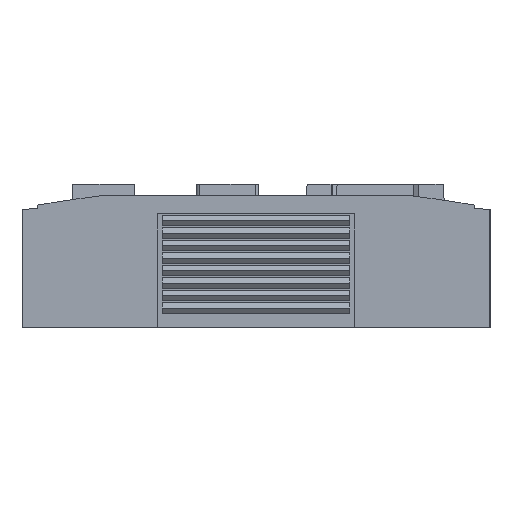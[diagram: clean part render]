
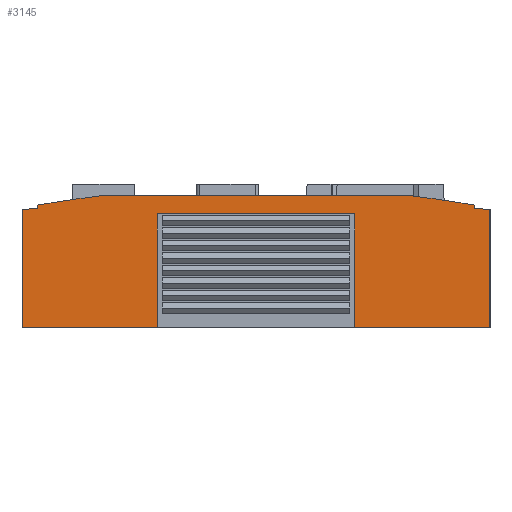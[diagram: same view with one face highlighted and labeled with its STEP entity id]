
A CAD part, left-side view. The second image highlights one B-rep face of the part: STEP entity #3145.
In plain terms, the highlighted planar face has unit normal (-1, 0, 0).
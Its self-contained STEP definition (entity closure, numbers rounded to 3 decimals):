
#43 = CARTESIAN_POINT ( 'NONE',  ( 0.5, 32., 0. ) ) ;
#82 = VERTEX_POINT ( 'NONE', #5056 ) ;
#91 = PLANE ( 'NONE',  #356 ) ;
#182 = DIRECTION ( 'NONE',  ( 0., 0., 1. ) ) ;
#196 = ORIENTED_EDGE ( 'NONE', *, *, #6388, .T. ) ;
#219 = DIRECTION ( 'NONE',  ( 0., 0., -1. ) ) ;
#260 = ORIENTED_EDGE ( 'NONE', *, *, #359, .F. ) ;
#279 = CARTESIAN_POINT ( 'NONE',  ( 0.5, 1.5, 11.8 ) ) ;
#281 = EDGE_CURVE ( 'NONE', #969, #1845, #2978, .T. ) ;
#317 = DIRECTION ( 'NONE',  ( 0., -1., 0. ) ) ;
#356 = AXIS2_PLACEMENT_3D ( 'NONE', #1046, #6386, #1518 ) ;
#359 = EDGE_CURVE ( 'NONE', #1845, #652, #5149, .T. ) ;
#413 = ORIENTED_EDGE ( 'NONE', *, *, #984, .T. ) ;
#439 = ORIENTED_EDGE ( 'NONE', *, *, #6609, .T. ) ;
#576 = VECTOR ( 'NONE', #4188, 1000. ) ;
#589 = EDGE_CURVE ( 'NONE', #6682, #82, #4470, .T. ) ;
#652 = VERTEX_POINT ( 'NONE', #3891 ) ;
#707 = VECTOR ( 'NONE', #182, 1000. ) ;
#721 = ORIENTED_EDGE ( 'NONE', *, *, #3409, .F. ) ;
#759 = EDGE_CURVE ( 'NONE', #4061, #1226, #1474, .T. ) ;
#834 = CARTESIAN_POINT ( 'NONE',  ( 0.5, 43.5, 11.8 ) ) ;
#864 = DIRECTION ( 'NONE',  ( 0., 0., -1. ) ) ;
#967 = DIRECTION ( 'NONE',  ( 0., 0.995, -0.099 ) ) ;
#969 = VERTEX_POINT ( 'NONE', #6579 ) ;
#984 = EDGE_CURVE ( 'NONE', #1226, #1808, #6511, .T. ) ;
#1025 = VECTOR ( 'NONE', #3736, 1000. ) ;
#1035 = ORIENTED_EDGE ( 'NONE', *, *, #4230, .F. ) ;
#1046 = CARTESIAN_POINT ( 'NONE',  ( 0.5, 45., 11.5 ) ) ;
#1059 = EDGE_CURVE ( 'NONE', #1149, #4763, #2122, .T. ) ;
#1066 = CARTESIAN_POINT ( 'NONE',  ( 0.5, 43.5, 11.5 ) ) ;
#1067 = VECTOR ( 'NONE', #317, 1000. ) ;
#1131 = CARTESIAN_POINT ( 'NONE',  ( 0.5, 32., 10.95 ) ) ;
#1149 = VERTEX_POINT ( 'NONE', #5047 ) ;
#1221 = VECTOR ( 'NONE', #4959, 1000. ) ;
#1226 = VERTEX_POINT ( 'NONE', #5976 ) ;
#1323 = VECTOR ( 'NONE', #967, 1000. ) ;
#1359 = CARTESIAN_POINT ( 'NONE',  ( 0.5, 22.5, -111.423 ) ) ;
#1474 = LINE ( 'NONE', #5690, #1323 ) ;
#1518 = DIRECTION ( 'NONE',  ( 0., 0., -1. ) ) ;
#1525 = DIRECTION ( 'NONE',  ( 0., 0., -1. ) ) ;
#1559 = CARTESIAN_POINT ( 'NONE',  ( 0.5, 32., 0. ) ) ;
#1675 = VECTOR ( 'NONE', #2404, 1000. ) ;
#1716 = CARTESIAN_POINT ( 'NONE',  ( 0.5, 13., 0. ) ) ;
#1727 = CARTESIAN_POINT ( 'NONE',  ( 0.5, 37.528, 12.67 ) ) ;
#1808 = VERTEX_POINT ( 'NONE', #2896 ) ;
#1830 = EDGE_CURVE ( 'NONE', #82, #4763, #2453, .T. ) ;
#1837 = CARTESIAN_POINT ( 'NONE',  ( 0.5, 45., 11.5 ) ) ;
#1845 = VERTEX_POINT ( 'NONE', #279 ) ;
#1869 = VECTOR ( 'NONE', #3448, 1000. ) ;
#1966 = CARTESIAN_POINT ( 'NONE',  ( 0.5, 22.5, -111.423 ) ) ;
#2031 = ORIENTED_EDGE ( 'NONE', *, *, #281, .F. ) ;
#2058 = ORIENTED_EDGE ( 'NONE', *, *, #589, .T. ) ;
#2075 = CARTESIAN_POINT ( 'NONE',  ( 0.5, 1.5, 11.8 ) ) ;
#2122 = LINE ( 'NONE', #2914, #576 ) ;
#2404 = DIRECTION ( 'NONE',  ( 0., -1., 0. ) ) ;
#2453 = LINE ( 'NONE', #5004, #1869 ) ;
#2468 = EDGE_CURVE ( 'NONE', #4163, #969, #5887, .T. ) ;
#2510 = LINE ( 'NONE', #5144, #1675 ) ;
#2691 = FACE_OUTER_BOUND ( 'NONE', #4591, .T. ) ;
#2696 = LINE ( 'NONE', #1559, #2780 ) ;
#2702 = AXIS2_PLACEMENT_3D ( 'NONE', #1359, #4944, #219 ) ;
#2743 = LINE ( 'NONE', #6475, #2911 ) ;
#2747 = DIRECTION ( 'NONE',  ( 0., 0., -1. ) ) ;
#2780 = VECTOR ( 'NONE', #1525, 1000. ) ;
#2896 = CARTESIAN_POINT ( 'NONE',  ( 0.5, 45., 0. ) ) ;
#2911 = VECTOR ( 'NONE', #3810, 1000. ) ;
#2914 = CARTESIAN_POINT ( 'NONE',  ( 0.5, 0., 11.5 ) ) ;
#2978 = CIRCLE ( 'NONE', #4076, 125. ) ;
#3134 = CARTESIAN_POINT ( 'NONE',  ( 0.5, 37.528, 12.67 ) ) ;
#3145 = ADVANCED_FACE ( 'NONE', ( #2691 ), #91, .F. ) ;
#3256 = CIRCLE ( 'NONE', #2702, 125. ) ;
#3271 = VERTEX_POINT ( 'NONE', #834 ) ;
#3409 = EDGE_CURVE ( 'NONE', #6274, #4130, #2696, .T. ) ;
#3448 = DIRECTION ( 'NONE',  ( 0., -1., 0. ) ) ;
#3536 = CARTESIAN_POINT ( 'NONE',  ( 0.5, 0., 0. ) ) ;
#3550 = DIRECTION ( 'NONE',  ( 0., 0., -1. ) ) ;
#3616 = EDGE_CURVE ( 'NONE', #1808, #4130, #2510, .T. ) ;
#3736 = DIRECTION ( 'NONE',  ( 0., -1., 0. ) ) ;
#3810 = DIRECTION ( 'NONE',  ( 0., 0.995, 0.099 ) ) ;
#3825 = ORIENTED_EDGE ( 'NONE', *, *, #759, .T. ) ;
#3891 = CARTESIAN_POINT ( 'NONE',  ( 0.5, 1.5, 11.5 ) ) ;
#4061 = VERTEX_POINT ( 'NONE', #1066 ) ;
#4076 = AXIS2_PLACEMENT_3D ( 'NONE', #1966, #5660, #3550 ) ;
#4130 = VERTEX_POINT ( 'NONE', #43 ) ;
#4163 = VERTEX_POINT ( 'NONE', #1727 ) ;
#4188 = DIRECTION ( 'NONE',  ( 0., 0., -1. ) ) ;
#4230 = EDGE_CURVE ( 'NONE', #4061, #3271, #5036, .T. ) ;
#4433 = ORIENTED_EDGE ( 'NONE', *, *, #1059, .F. ) ;
#4463 = CARTESIAN_POINT ( 'NONE',  ( 0.5, 13., 10.95 ) ) ;
#4470 = LINE ( 'NONE', #1716, #1221 ) ;
#4591 = EDGE_LOOP ( 'NONE', ( #413, #6195, #721, #439, #2058, #6749, #4433, #196, #260, #2031, #5600, #6585, #1035, #3825 ) ) ;
#4763 = VERTEX_POINT ( 'NONE', #3536 ) ;
#4944 = DIRECTION ( 'NONE',  ( 1., 0., 0. ) ) ;
#4959 = DIRECTION ( 'NONE',  ( 0., 0., -1. ) ) ;
#4984 = EDGE_CURVE ( 'NONE', #3271, #4163, #3256, .T. ) ;
#5004 = CARTESIAN_POINT ( 'NONE',  ( 0.5, 45., 0. ) ) ;
#5036 = LINE ( 'NONE', #5493, #707 ) ;
#5041 = CARTESIAN_POINT ( 'NONE',  ( 0.5, 32., 10.95 ) ) ;
#5047 = CARTESIAN_POINT ( 'NONE',  ( 0.5, 0., 11.35 ) ) ;
#5056 = CARTESIAN_POINT ( 'NONE',  ( 0.5, 13., 0. ) ) ;
#5082 = LINE ( 'NONE', #5041, #1067 ) ;
#5144 = CARTESIAN_POINT ( 'NONE',  ( 0.5, 45., 0. ) ) ;
#5149 = LINE ( 'NONE', #2075, #5403 ) ;
#5403 = VECTOR ( 'NONE', #864, 1000. ) ;
#5493 = CARTESIAN_POINT ( 'NONE',  ( 0.5, 43.5, 11.8 ) ) ;
#5600 = ORIENTED_EDGE ( 'NONE', *, *, #2468, .F. ) ;
#5660 = DIRECTION ( 'NONE',  ( 1., 0., 0. ) ) ;
#5690 = CARTESIAN_POINT ( 'NONE',  ( 0.5, 43.5, 11.5 ) ) ;
#5887 = LINE ( 'NONE', #3134, #1025 ) ;
#5976 = CARTESIAN_POINT ( 'NONE',  ( 0.5, 45., 11.35 ) ) ;
#6195 = ORIENTED_EDGE ( 'NONE', *, *, #3616, .T. ) ;
#6274 = VERTEX_POINT ( 'NONE', #1131 ) ;
#6386 = DIRECTION ( 'NONE',  ( 1., 0., 0. ) ) ;
#6388 = EDGE_CURVE ( 'NONE', #1149, #652, #2743, .T. ) ;
#6475 = CARTESIAN_POINT ( 'NONE',  ( 0.5, 1.5, 11.5 ) ) ;
#6511 = LINE ( 'NONE', #1837, #6629 ) ;
#6579 = CARTESIAN_POINT ( 'NONE',  ( 0.5, 7.472, 12.67 ) ) ;
#6585 = ORIENTED_EDGE ( 'NONE', *, *, #4984, .F. ) ;
#6609 = EDGE_CURVE ( 'NONE', #6274, #6682, #5082, .T. ) ;
#6629 = VECTOR ( 'NONE', #2747, 1000. ) ;
#6682 = VERTEX_POINT ( 'NONE', #4463 ) ;
#6749 = ORIENTED_EDGE ( 'NONE', *, *, #1830, .T. ) ;
